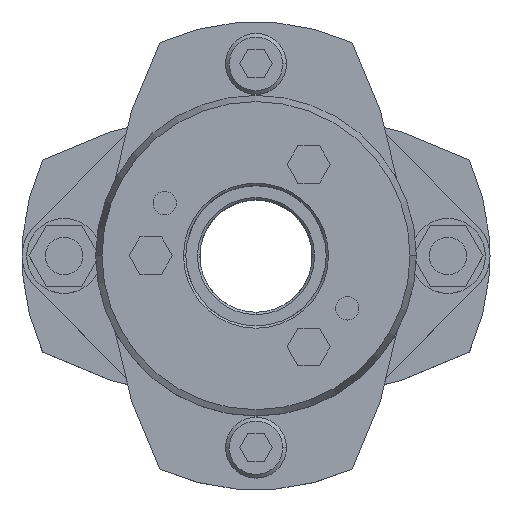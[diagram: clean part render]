
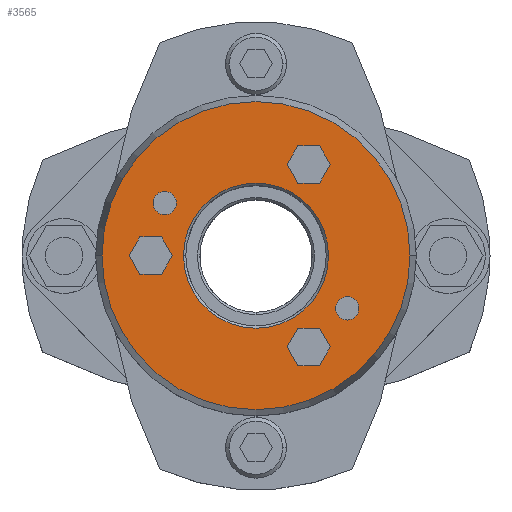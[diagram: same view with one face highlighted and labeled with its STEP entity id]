
A CAD part, top view. The second image highlights one B-rep face of the part: STEP entity #3565.
In plain terms, the highlighted planar face has unit normal (0, 0, 1).
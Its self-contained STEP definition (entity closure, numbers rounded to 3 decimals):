
#1471=CARTESIAN_POINT('',(-15.5,0.,42.0));
#1472=VERTEX_POINT('',#1471);
#1488=CARTESIAN_POINT('',(15.5,0.,42.0));
#1489=VERTEX_POINT('',#1488);
#1496=CARTESIAN_POINT('',(0.,0.,42.0));
#1497=DIRECTION('',(0.0,0.0,1.0));
#1498=DIRECTION('',(-1.0,0.0,0.0));
#1499=AXIS2_PLACEMENT_3D('',#1496,#1497,#1498);
#1500=CIRCLE('',#1499,15.5);
#1501=EDGE_CURVE('',#1489,#1472,#1500,.T.);
#1659=CARTESIAN_POINT('',(32.91,0.,42.0));
#1660=VERTEX_POINT('',#1659);
#1667=CARTESIAN_POINT('',(-32.91,0.,42.0));
#1668=VERTEX_POINT('',#1667);
#1669=CARTESIAN_POINT('',(0.,0.,42.0));
#1670=DIRECTION('',(0.0,0.0,-1.0));
#1671=DIRECTION('',(1.0,0.0,0.0));
#1672=AXIS2_PLACEMENT_3D('',#1669,#1670,#1671);
#1673=CIRCLE('',#1672,32.91);
#1674=EDGE_CURVE('',#1660,#1668,#1673,.T.);
#1769=CARTESIAN_POINT('',(16.986,-11.25,42.0));
#1770=VERTEX_POINT('',#1769);
#1786=CARTESIAN_POINT('',(21.986,-11.25,42.0));
#1787=VERTEX_POINT('',#1786);
#1794=CARTESIAN_POINT('',(19.486,-11.25,42.0));
#1795=DIRECTION('',(0.0,0.0,-1.0));
#1796=DIRECTION('',(-1.0,0.0,0.0));
#1797=AXIS2_PLACEMENT_3D('',#1794,#1795,#1796);
#1798=CIRCLE('',#1797,2.5);
#1799=EDGE_CURVE('',#1770,#1787,#1798,.T.);
#1811=CARTESIAN_POINT('',(-21.986,11.25,42.0));
#1812=VERTEX_POINT('',#1811);
#1828=CARTESIAN_POINT('',(-16.986,11.25,42.0));
#1829=VERTEX_POINT('',#1828);
#1836=CARTESIAN_POINT('',(-19.486,11.25,42.0));
#1837=DIRECTION('',(0.0,0.0,-1.0));
#1838=DIRECTION('',(-1.0,0.0,0.0));
#1839=AXIS2_PLACEMENT_3D('',#1836,#1837,#1838);
#1840=CIRCLE('',#1839,2.5);
#1841=EDGE_CURVE('',#1812,#1829,#1840,.T.);
#2592=CARTESIAN_POINT('',(-19.486,11.25,42.0));
#2593=DIRECTION('',(0.0,0.0,-1.0));
#2594=DIRECTION('',(-1.0,0.0,0.0));
#2595=AXIS2_PLACEMENT_3D('',#2592,#2593,#2594);
#2596=CIRCLE('',#2595,2.5);
#2597=EDGE_CURVE('',#1829,#1812,#2596,.T.);
#2626=CARTESIAN_POINT('',(19.486,-11.25,42.0));
#2627=DIRECTION('',(0.0,0.0,-1.0));
#2628=DIRECTION('',(-1.0,0.0,0.0));
#2629=AXIS2_PLACEMENT_3D('',#2626,#2627,#2628);
#2630=CIRCLE('',#2629,2.5);
#2631=EDGE_CURVE('',#1787,#1770,#2630,.T.);
#2669=CARTESIAN_POINT('',(-27.119,0.,42.0));
#2670=VERTEX_POINT('',#2669);
#2677=CARTESIAN_POINT('',(-24.809,-4.,42.0));
#2678=VERTEX_POINT('',#2677);
#2679=CARTESIAN_POINT('',(-24.809,-4.,42.0));
#2680=DIRECTION('',(-0.5,0.866,0.0));
#2681=VECTOR('',#2680,4.619);
#2682=LINE('',#2679,#2681);
#2683=EDGE_CURVE('',#2678,#2670,#2682,.T.);
#2707=CARTESIAN_POINT('',(-24.809,4.,42.0));
#2708=VERTEX_POINT('',#2707);
#2715=CARTESIAN_POINT('',(-27.119,0.,42.0));
#2716=DIRECTION('',(0.5,0.866,0.0));
#2717=VECTOR('',#2716,4.619);
#2718=LINE('',#2715,#2717);
#2719=EDGE_CURVE('',#2670,#2708,#2718,.T.);
#2738=CARTESIAN_POINT('',(-20.191,4.,42.0));
#2739=VERTEX_POINT('',#2738);
#2746=CARTESIAN_POINT('',(-24.809,4.,42.0));
#2747=DIRECTION('',(1.0,0.0,0.0));
#2748=VECTOR('',#2747,4.619);
#2749=LINE('',#2746,#2748);
#2750=EDGE_CURVE('',#2708,#2739,#2749,.T.);
#2769=CARTESIAN_POINT('',(-17.881,0.,42.0));
#2770=VERTEX_POINT('',#2769);
#2777=CARTESIAN_POINT('',(-20.191,4.,42.0));
#2778=DIRECTION('',(0.5,-0.866,0.0));
#2779=VECTOR('',#2778,4.619);
#2780=LINE('',#2777,#2779);
#2781=EDGE_CURVE('',#2739,#2770,#2780,.T.);
#2800=CARTESIAN_POINT('',(-20.191,-4.,42.0));
#2801=VERTEX_POINT('',#2800);
#2808=CARTESIAN_POINT('',(-17.881,0.,42.0));
#2809=DIRECTION('',(-0.5,-0.866,0.0));
#2810=VECTOR('',#2809,4.619);
#2811=LINE('',#2808,#2810);
#2812=EDGE_CURVE('',#2770,#2801,#2811,.T.);
#2830=CARTESIAN_POINT('',(-20.191,-4.,42.0));
#2831=DIRECTION('',(-1.0,0.0,0.0));
#2832=VECTOR('',#2831,4.619);
#2833=LINE('',#2830,#2832);
#2834=EDGE_CURVE('',#2801,#2678,#2833,.T.);
#2869=CARTESIAN_POINT('',(6.631,19.486,42.0));
#2870=VERTEX_POINT('',#2869);
#2877=CARTESIAN_POINT('',(8.941,15.486,42.0));
#2878=VERTEX_POINT('',#2877);
#2879=CARTESIAN_POINT('',(8.941,15.486,42.0));
#2880=DIRECTION('',(-0.5,0.866,0.0));
#2881=VECTOR('',#2880,4.619);
#2882=LINE('',#2879,#2881);
#2883=EDGE_CURVE('',#2878,#2870,#2882,.T.);
#2907=CARTESIAN_POINT('',(8.941,23.486,42.0));
#2908=VERTEX_POINT('',#2907);
#2915=CARTESIAN_POINT('',(6.631,19.486,42.0));
#2916=DIRECTION('',(0.5,0.866,0.0));
#2917=VECTOR('',#2916,4.619);
#2918=LINE('',#2915,#2917);
#2919=EDGE_CURVE('',#2870,#2908,#2918,.T.);
#2938=CARTESIAN_POINT('',(13.559,23.486,42.0));
#2939=VERTEX_POINT('',#2938);
#2946=CARTESIAN_POINT('',(8.941,23.486,42.0));
#2947=DIRECTION('',(1.0,0.0,0.0));
#2948=VECTOR('',#2947,4.619);
#2949=LINE('',#2946,#2948);
#2950=EDGE_CURVE('',#2908,#2939,#2949,.T.);
#2969=CARTESIAN_POINT('',(15.869,19.486,42.0));
#2970=VERTEX_POINT('',#2969);
#2977=CARTESIAN_POINT('',(13.559,23.486,42.0));
#2978=DIRECTION('',(0.5,-0.866,0.0));
#2979=VECTOR('',#2978,4.619);
#2980=LINE('',#2977,#2979);
#2981=EDGE_CURVE('',#2939,#2970,#2980,.T.);
#3000=CARTESIAN_POINT('',(13.559,15.486,42.0));
#3001=VERTEX_POINT('',#3000);
#3008=CARTESIAN_POINT('',(15.869,19.486,42.0));
#3009=DIRECTION('',(-0.5,-0.866,0.0));
#3010=VECTOR('',#3009,4.619);
#3011=LINE('',#3008,#3010);
#3012=EDGE_CURVE('',#2970,#3001,#3011,.T.);
#3030=CARTESIAN_POINT('',(13.559,15.486,42.0));
#3031=DIRECTION('',(-1.0,0.0,0.0));
#3032=VECTOR('',#3031,4.619);
#3033=LINE('',#3030,#3032);
#3034=EDGE_CURVE('',#3001,#2878,#3033,.T.);
#3069=CARTESIAN_POINT('',(6.631,-19.486,42.0));
#3070=VERTEX_POINT('',#3069);
#3077=CARTESIAN_POINT('',(8.941,-23.486,42.0));
#3078=VERTEX_POINT('',#3077);
#3079=CARTESIAN_POINT('',(8.941,-23.486,42.0));
#3080=DIRECTION('',(-0.5,0.866,0.0));
#3081=VECTOR('',#3080,4.619);
#3082=LINE('',#3079,#3081);
#3083=EDGE_CURVE('',#3078,#3070,#3082,.T.);
#3107=CARTESIAN_POINT('',(8.941,-15.486,42.0));
#3108=VERTEX_POINT('',#3107);
#3115=CARTESIAN_POINT('',(6.631,-19.486,42.0));
#3116=DIRECTION('',(0.5,0.866,0.0));
#3117=VECTOR('',#3116,4.619);
#3118=LINE('',#3115,#3117);
#3119=EDGE_CURVE('',#3070,#3108,#3118,.T.);
#3138=CARTESIAN_POINT('',(13.559,-15.486,42.0));
#3139=VERTEX_POINT('',#3138);
#3146=CARTESIAN_POINT('',(8.941,-15.486,42.0));
#3147=DIRECTION('',(1.0,0.0,0.0));
#3148=VECTOR('',#3147,4.619);
#3149=LINE('',#3146,#3148);
#3150=EDGE_CURVE('',#3108,#3139,#3149,.T.);
#3169=CARTESIAN_POINT('',(15.869,-19.486,42.0));
#3170=VERTEX_POINT('',#3169);
#3177=CARTESIAN_POINT('',(13.559,-15.486,42.0));
#3178=DIRECTION('',(0.5,-0.866,0.0));
#3179=VECTOR('',#3178,4.619);
#3180=LINE('',#3177,#3179);
#3181=EDGE_CURVE('',#3139,#3170,#3180,.T.);
#3200=CARTESIAN_POINT('',(13.559,-23.486,42.0));
#3201=VERTEX_POINT('',#3200);
#3208=CARTESIAN_POINT('',(15.869,-19.486,42.0));
#3209=DIRECTION('',(-0.5,-0.866,0.0));
#3210=VECTOR('',#3209,4.619);
#3211=LINE('',#3208,#3210);
#3212=EDGE_CURVE('',#3170,#3201,#3211,.T.);
#3230=CARTESIAN_POINT('',(13.559,-23.486,42.0));
#3231=DIRECTION('',(-1.0,0.0,0.0));
#3232=VECTOR('',#3231,4.619);
#3233=LINE('',#3230,#3232);
#3234=EDGE_CURVE('',#3201,#3078,#3233,.T.);
#3504=CARTESIAN_POINT('',(0.,0.,42.0));
#3505=DIRECTION('',(0.0,0.0,-1.0));
#3506=DIRECTION('',(1.0,0.0,0.0));
#3507=AXIS2_PLACEMENT_3D('',#3504,#3505,#3506);
#3508=CIRCLE('',#3507,32.91);
#3509=EDGE_CURVE('',#1668,#1660,#3508,.T.);
#3514=CARTESIAN_POINT('',(-3.114,0.,42.0));
#3515=DIRECTION('',(0.0,0.0,1.0));
#3516=DIRECTION('',(-1.0,0.0,0.0));
#3517=AXIS2_PLACEMENT_3D('',#3514,#3515,#3516);
#3518=PLANE('',#3517);
#3519=ORIENTED_EDGE('',*,*,#3509,.F.);
#3520=ORIENTED_EDGE('',*,*,#1674,.F.);
#3521=EDGE_LOOP('',(#3519,#3520));
#3522=FACE_OUTER_BOUND('',#3521,.T.);
#3523=ORIENTED_EDGE('',*,*,#1841,.T.);
#3524=ORIENTED_EDGE('',*,*,#2597,.T.);
#3525=EDGE_LOOP('',(#3523,#3524));
#3526=FACE_BOUND('',#3525,.T.);
#3527=ORIENTED_EDGE('',*,*,#1799,.T.);
#3528=ORIENTED_EDGE('',*,*,#2631,.T.);
#3529=EDGE_LOOP('',(#3527,#3528));
#3530=FACE_BOUND('',#3529,.T.);
#3531=ORIENTED_EDGE('',*,*,#2683,.T.);
#3532=ORIENTED_EDGE('',*,*,#2719,.T.);
#3533=ORIENTED_EDGE('',*,*,#2750,.T.);
#3534=ORIENTED_EDGE('',*,*,#2781,.T.);
#3535=ORIENTED_EDGE('',*,*,#2812,.T.);
#3536=ORIENTED_EDGE('',*,*,#2834,.T.);
#3537=EDGE_LOOP('',(#3531,#3532,#3533,#3534,#3535,#3536));
#3538=FACE_BOUND('',#3537,.T.);
#3539=ORIENTED_EDGE('',*,*,#2883,.T.);
#3540=ORIENTED_EDGE('',*,*,#2919,.T.);
#3541=ORIENTED_EDGE('',*,*,#2950,.T.);
#3542=ORIENTED_EDGE('',*,*,#2981,.T.);
#3543=ORIENTED_EDGE('',*,*,#3012,.T.);
#3544=ORIENTED_EDGE('',*,*,#3034,.T.);
#3545=EDGE_LOOP('',(#3539,#3540,#3541,#3542,#3543,#3544));
#3546=FACE_BOUND('',#3545,.T.);
#3547=ORIENTED_EDGE('',*,*,#3083,.T.);
#3548=ORIENTED_EDGE('',*,*,#3119,.T.);
#3549=ORIENTED_EDGE('',*,*,#3150,.T.);
#3550=ORIENTED_EDGE('',*,*,#3181,.T.);
#3551=ORIENTED_EDGE('',*,*,#3212,.T.);
#3552=ORIENTED_EDGE('',*,*,#3234,.T.);
#3553=EDGE_LOOP('',(#3547,#3548,#3549,#3550,#3551,#3552));
#3554=FACE_BOUND('',#3553,.T.);
#3555=ORIENTED_EDGE('',*,*,#1501,.F.);
#3556=CARTESIAN_POINT('',(0.,0.,42.0));
#3557=DIRECTION('',(0.0,0.0,1.0));
#3558=DIRECTION('',(-1.0,0.0,0.0));
#3559=AXIS2_PLACEMENT_3D('',#3556,#3557,#3558);
#3560=CIRCLE('',#3559,15.5);
#3561=EDGE_CURVE('',#1472,#1489,#3560,.T.);
#3562=ORIENTED_EDGE('',*,*,#3561,.F.);
#3563=EDGE_LOOP('',(#3555,#3562));
#3564=FACE_BOUND('',#3563,.T.);
#3565=ADVANCED_FACE('',(#3522,#3526,#3530,#3538,#3546,#3554,#3564),#3518,.T.);
